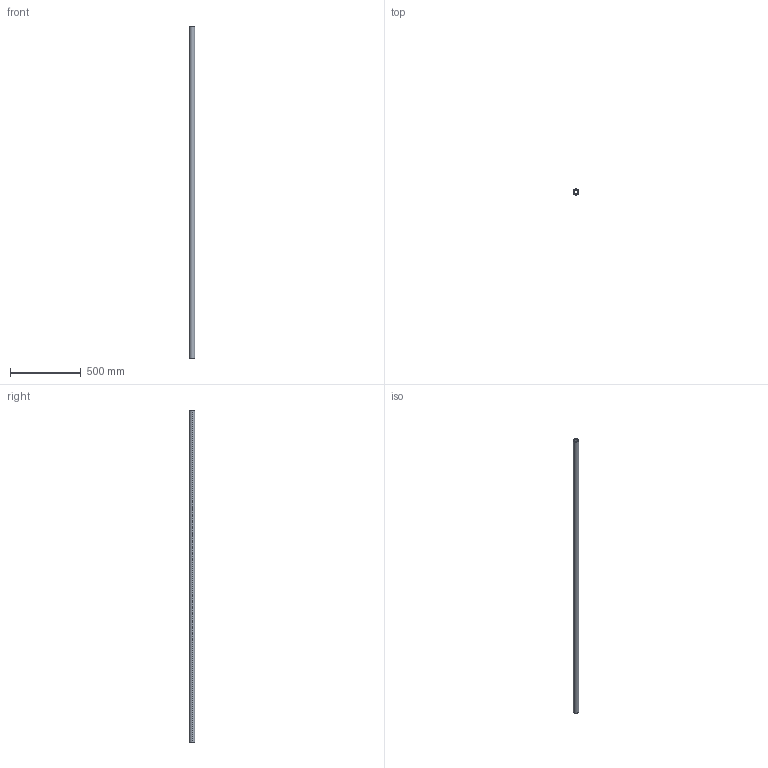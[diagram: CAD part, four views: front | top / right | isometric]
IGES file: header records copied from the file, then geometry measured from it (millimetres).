
Start section: SolidWorks IGES file using analytic representation for surfaces
Global section: file name: C:\Users\IanO\Desktop\L1771_v2\L1771.40_v2\L1771.40_v2_20230705_IGES\L1771.40-2350.igs; native system: SolidWorks 2019; preprocessor: SolidWorks 2019; author: IanO; date: 230705.161205; units: millimetre
Bounding box: 40 x 40 x 2350 mm (x, y, z)
Surface area: 503308.3 mm2 (no closed solid volume)
Topology: 0 solids, 0 shells, 6 faces, 272 edges, 272 vertices
Faces by surface type: revolution 4, bspline 2
